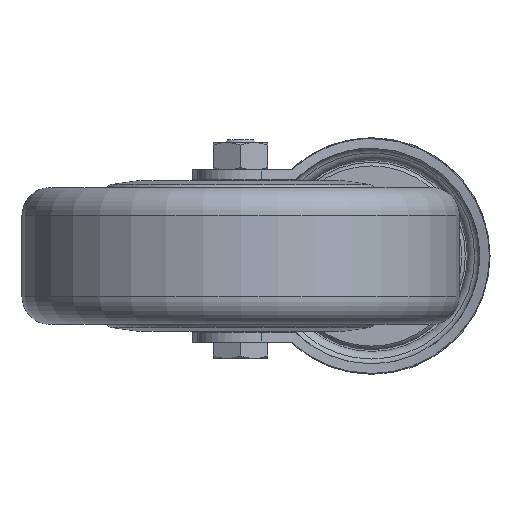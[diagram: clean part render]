
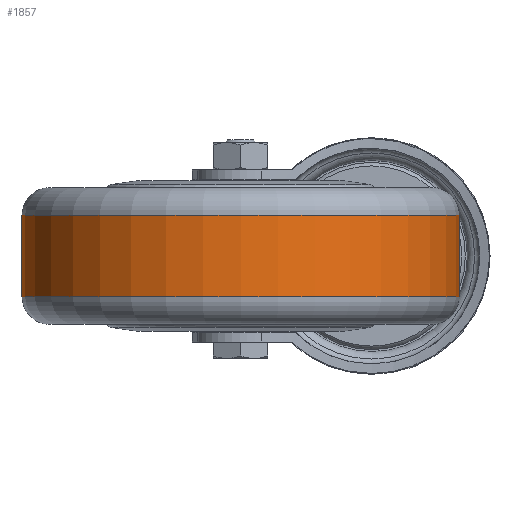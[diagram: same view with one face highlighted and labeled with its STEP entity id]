
A CAD part, front view. The second image highlights one B-rep face of the part: STEP entity #1857.
In plain terms, the highlighted cylindrical face has radius 40 mm (diameter 80 mm), a full revolution.
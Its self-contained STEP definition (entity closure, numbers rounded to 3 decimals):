
#205=FACE_OUTER_BOUND('',#338,.T.);
#338=EDGE_LOOP('',(#1335,#1336,#1337,#1338));
#461=LINE('',#3030,#543);
#543=VECTOR('',#2419,40.);
#658=CIRCLE('',#2052,40.);
#659=CIRCLE('',#2054,40.);
#809=VERTEX_POINT('',#3025);
#810=VERTEX_POINT('',#3029);
#1006=EDGE_CURVE('',#809,#809,#658,.T.);
#1007=EDGE_CURVE('',#809,#810,#461,.T.);
#1008=EDGE_CURVE('',#810,#810,#659,.T.);
#1335=ORIENTED_EDGE('',*,*,#1006,.F.);
#1336=ORIENTED_EDGE('',*,*,#1007,.T.);
#1337=ORIENTED_EDGE('',*,*,#1008,.F.);
#1338=ORIENTED_EDGE('',*,*,#1007,.F.);
#1809=CYLINDRICAL_SURFACE('',#2053,40.);
#1857=ADVANCED_FACE('',(#205),#1809,.T.);
#2052=AXIS2_PLACEMENT_3D('',#3027,#2415,#2416);
#2053=AXIS2_PLACEMENT_3D('',#3028,#2417,#2418);
#2054=AXIS2_PLACEMENT_3D('',#3031,#2420,#2421);
#2415=DIRECTION('center_axis',(0.,0.,-1.));
#2416=DIRECTION('ref_axis',(-1.,0.,0.));
#2417=DIRECTION('center_axis',(0.,0.,-1.));
#2418=DIRECTION('ref_axis',(-1.,0.,0.));
#2419=DIRECTION('',(0.,0.,1.));
#2420=DIRECTION('center_axis',(0.,0.,1.));
#2421=DIRECTION('ref_axis',(-1.,0.,0.));
#3025=CARTESIAN_POINT('',(16.,-62.5,-7.5));
#3027=CARTESIAN_POINT('Origin',(-24.,-62.5,-7.5));
#3028=CARTESIAN_POINT('Origin',(-24.,-62.5,12.5));
#3029=CARTESIAN_POINT('',(16.,-62.5,7.5));
#3030=CARTESIAN_POINT('',(16.,-62.5,12.5));
#3031=CARTESIAN_POINT('Origin',(-24.,-62.5,7.5));
